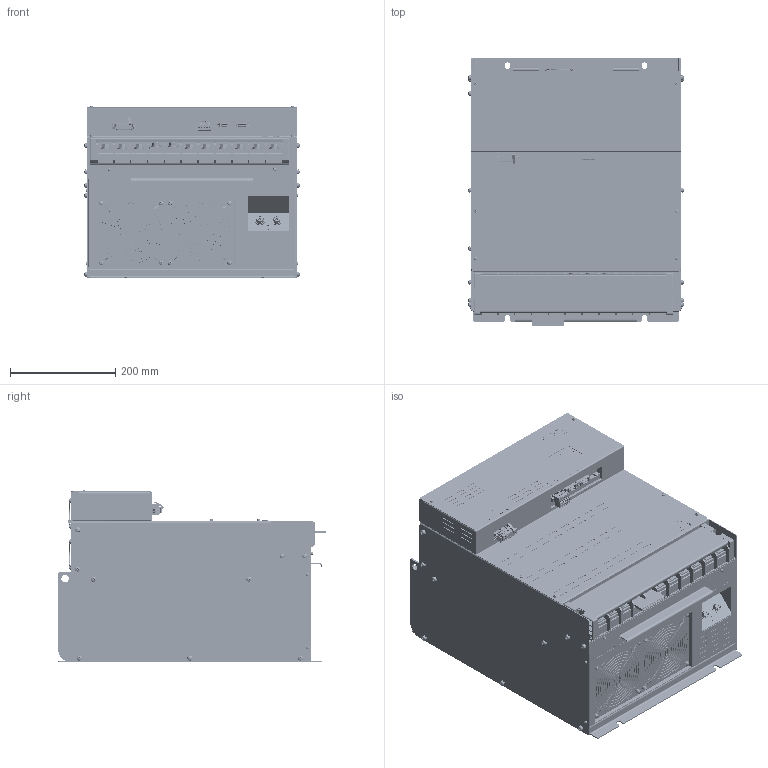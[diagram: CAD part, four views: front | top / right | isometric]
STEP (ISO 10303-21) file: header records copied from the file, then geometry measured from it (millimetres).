
FILE_DESCRIPTION (( 'STEP AP203' ), '1' );
FILE_NAME ('NCR-HC2-3_373#SE-83762.STEP', '2021-07-08T05:10:15', ( '' ), ( '' ), 'SwSTEP 2.0', 'SolidWorks 2018', '' );
FILE_SCHEMA (( 'CONFIG_CONTROL_DESIGN' ));
Products named in the file (1): NCR-HC2-3_373#SE-83762
Bounding box: 409.06 x 508 x 327.95 mm (x, y, z)
Volume: 50164887.4 mm3; surface area: 1552461.2 mm2
Topology: 5 solids, 44 shells, 15810 faces, 42873 edges, 27590 vertices
Faces by surface type: plane 9554, cylinder 2800, bspline 1852, cone 1236, torus 278, sphere 90
Entity records: 561797 total; most frequent: CARTESIAN_POINT 170179, ORIENTED_EDGE 85526, DIRECTION 75614, EDGE_CURVE 42763, VERTEX_POINT 27590, VECTOR 27430, LINE 27430, AXIS2_PLACEMENT_3D 24092
